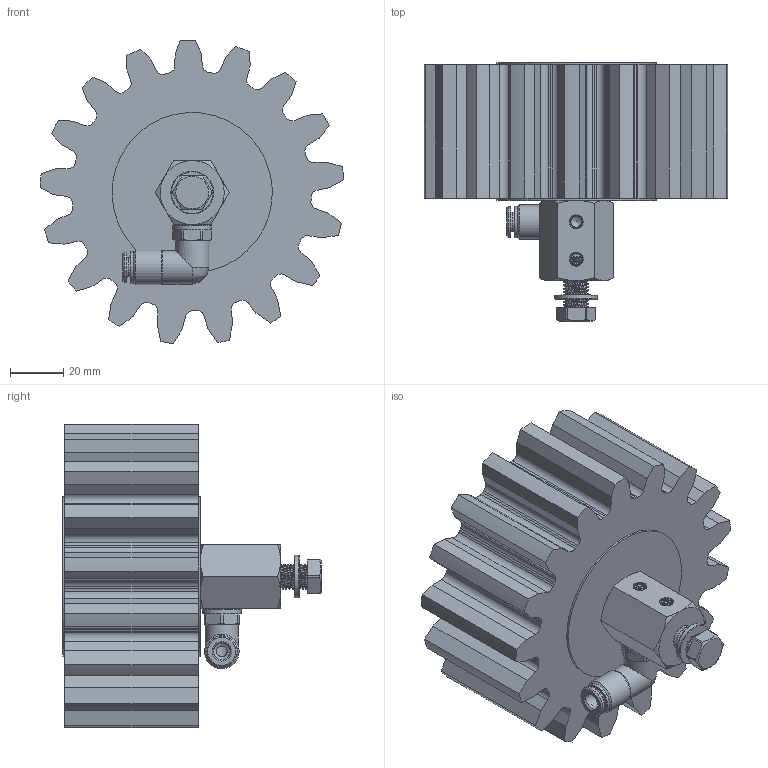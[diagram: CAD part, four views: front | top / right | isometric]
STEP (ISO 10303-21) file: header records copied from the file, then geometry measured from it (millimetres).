
FILE_DESCRIPTION (( 'STEP AP214' ), '1' );
FILE_NAME ('012_13_06_50_17BZ.STEP', '2026-04-08T10:32:38', ( '' ), ( '' ), 'SwSTEP 2.0', 'SolidWorks 2022', '' );
FILE_SCHEMA (( 'AUTOMOTIVE_DESIGN' ));
Length unit declared in the file: millimetre
Products named in the file (13): Schraube_M8_20; RH202242; RIVOLUZIONE_0_2; U_Scheibe_8,4; DR6-C_HDX_25.07.16_1; 012_13b_02_winklige_Achse_M10_1; 012_13_06_50_17BZ; OR 7.2X1.9_1; 12012_06_01_Scheibe-CRS-VA_60.SLDASM; Schmierzahnrad_06_50_17G; H202242_HDS022_6_M10X1_08.05.17(1); 012_06_Senkschraube; Scheibe_hinten_winklige Achse_groß
Assembly tree (12 placements, depth 3):
  012_13_06_50_17BZ
    012_13b_02_winklige_Achse_M10_1
    Schraube_M8_20
    U_Scheibe_8,4
    H202242_HDS022_6_M10X1_08.05.17(1)
      OR 7.2X1.9_1
      RH202242
      DR6-C_HDX_25.07.16_1
      RIVOLUZIONE_0_2
    12012_06_01_Scheibe-CRS-VA_60.SLDASM
    Scheibe_hinten_winklige Achse_groß
    012_06_Senkschraube
    Schmierzahnrad_06_50_17G
Bounding box: 113.77 x 96.9 x 113.55 mm (x, y, z)
Volume: 433956.6 mm3; surface area: 69781.4 mm2
Topology: 11 solids, 11 shells, 729 faces, 1985 edges, 1315 vertices
Faces by surface type: plane 379, bspline 184, cylinder 106, cone 57, torus 3
Full cylindrical faces by diameter (mm): 4 x3, 5.5 x1, 6 x1, 6.2 x1, 6.3 x1, 6.5 x1, 7.2 x1, 8.4 x1, 8.5 x1, 9 x10, 9.9 x1, 10 x2, 10.1 x2, 10.3 x1, 11.5 x1, 11.7 x1, 12.5 x2, 13 x1, 14.5 x1, 16 x1, 60 x2
Entity records: 48167 total; most frequent: CARTESIAN_POINT 30642, ORIENTED_EDGE 3668, DIRECTION 2683, EDGE_CURVE 1834, VERTEX_POINT 1249, LINE 1079, VECTOR 1079, EDGE_LOOP 851
